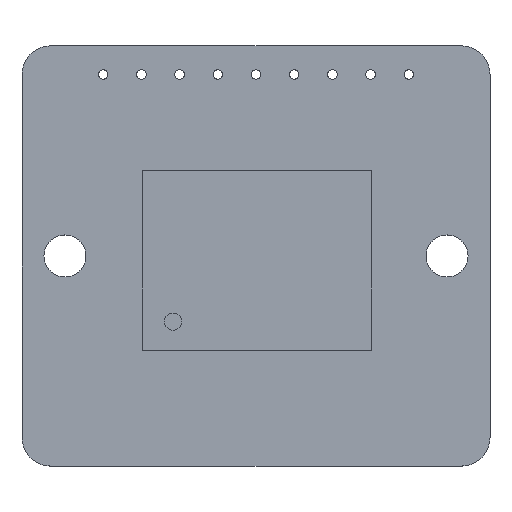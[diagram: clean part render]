
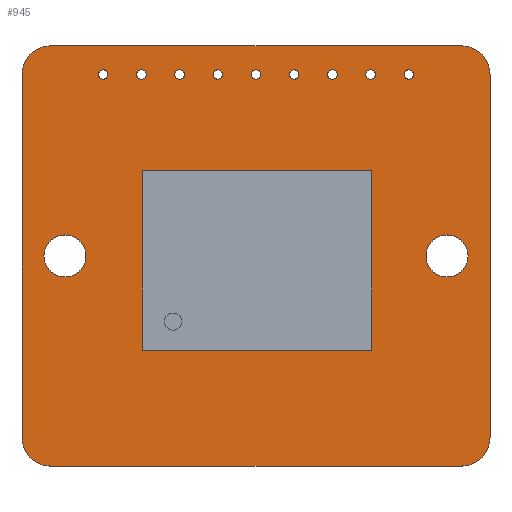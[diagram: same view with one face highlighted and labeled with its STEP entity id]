
A CAD part, top view. The second image highlights one B-rep face of the part: STEP entity #945.
In plain terms, the highlighted planar face has unit normal (0, 0, 1).
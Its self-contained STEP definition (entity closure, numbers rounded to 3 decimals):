
#284 = VERTEX_POINT('',#285);
#285 = CARTESIAN_POINT('',(-12.25,-9.5,1.599));
#291 = EDGE_CURVE('',#284,#292,#294,.T.);
#292 = VERTEX_POINT('',#293);
#293 = CARTESIAN_POINT('',(-12.25,9.5,1.599));
#294 = LINE('',#295,#296);
#295 = CARTESIAN_POINT('',(-12.25,-9.5,1.599));
#296 = VECTOR('',#297,1.);
#297 = DIRECTION('',(0.,1.,0.));
#322 = EDGE_CURVE('',#292,#323,#325,.T.);
#323 = VERTEX_POINT('',#324);
#324 = CARTESIAN_POINT('',(-10.75,11.,1.599));
#325 = CIRCLE('',#326,1.499);
#326 = AXIS2_PLACEMENT_3D('',#327,#328,#329);
#327 = CARTESIAN_POINT('',(-10.751,9.501,1.599));
#328 = DIRECTION('',(0.,0.,-1.));
#329 = DIRECTION('',(-1.,-0.001,-0.));
#355 = EDGE_CURVE('',#323,#356,#358,.T.);
#356 = VERTEX_POINT('',#357);
#357 = CARTESIAN_POINT('',(10.75,11.,1.599));
#358 = LINE('',#359,#360);
#359 = CARTESIAN_POINT('',(-10.75,11.,1.599));
#360 = VECTOR('',#361,1.);
#361 = DIRECTION('',(1.,0.,0.));
#386 = EDGE_CURVE('',#356,#387,#389,.T.);
#387 = VERTEX_POINT('',#388);
#388 = CARTESIAN_POINT('',(12.25,9.498,1.599));
#389 = CIRCLE('',#390,1.499);
#390 = AXIS2_PLACEMENT_3D('',#391,#392,#393);
#391 = CARTESIAN_POINT('',(10.751,9.501,1.599));
#392 = DIRECTION('',(0.,0.,-1.));
#393 = DIRECTION('',(-0.001,1.,0.));
#419 = EDGE_CURVE('',#387,#420,#422,.T.);
#420 = VERTEX_POINT('',#421);
#421 = CARTESIAN_POINT('',(12.25,-9.5,1.599));
#422 = LINE('',#423,#424);
#423 = CARTESIAN_POINT('',(12.25,9.498,1.599));
#424 = VECTOR('',#425,1.);
#425 = DIRECTION('',(0.,-1.,0.));
#450 = EDGE_CURVE('',#420,#451,#453,.T.);
#451 = VERTEX_POINT('',#452);
#452 = CARTESIAN_POINT('',(10.75,-11.,1.599));
#453 = CIRCLE('',#454,1.499);
#454 = AXIS2_PLACEMENT_3D('',#455,#456,#457);
#455 = CARTESIAN_POINT('',(10.751,-9.501,1.599));
#456 = DIRECTION('',(0.,0.,-1.));
#457 = DIRECTION('',(1.,0.001,0.));
#483 = EDGE_CURVE('',#451,#484,#486,.T.);
#484 = VERTEX_POINT('',#485);
#485 = CARTESIAN_POINT('',(-10.75,-11.,1.599));
#486 = LINE('',#487,#488);
#487 = CARTESIAN_POINT('',(10.75,-11.,1.599));
#488 = VECTOR('',#489,1.);
#489 = DIRECTION('',(-1.,0.,0.));
#514 = EDGE_CURVE('',#484,#284,#515,.T.);
#515 = CIRCLE('',#516,1.499);
#516 = AXIS2_PLACEMENT_3D('',#517,#518,#519);
#517 = CARTESIAN_POINT('',(-10.751,-9.501,1.599));
#518 = DIRECTION('',(0.,0.,-1.));
#519 = DIRECTION('',(0.001,-1.,0.));
#540 = VERTEX_POINT('',#541);
#541 = CARTESIAN_POINT('',(-8.9,0.,1.599));
#547 = EDGE_CURVE('',#540,#540,#548,.T.);
#548 = CIRCLE('',#549,1.1);
#549 = AXIS2_PLACEMENT_3D('',#550,#551,#552);
#550 = CARTESIAN_POINT('',(-10.,0.,1.599));
#551 = DIRECTION('',(0.,0.,1.));
#552 = DIRECTION('',(1.,0.,-0.));
#573 = VERTEX_POINT('',#574);
#574 = CARTESIAN_POINT('',(-7.75,9.5,1.599));
#580 = EDGE_CURVE('',#573,#573,#581,.T.);
#581 = CIRCLE('',#582,0.25);
#582 = AXIS2_PLACEMENT_3D('',#583,#584,#585);
#583 = CARTESIAN_POINT('',(-8.,9.5,1.599));
#584 = DIRECTION('',(0.,0.,1.));
#585 = DIRECTION('',(1.,0.,-0.));
#606 = VERTEX_POINT('',#607);
#607 = CARTESIAN_POINT('',(-5.75,9.5,1.599));
#613 = EDGE_CURVE('',#606,#606,#614,.T.);
#614 = CIRCLE('',#615,0.25);
#615 = AXIS2_PLACEMENT_3D('',#616,#617,#618);
#616 = CARTESIAN_POINT('',(-6.,9.5,1.599));
#617 = DIRECTION('',(0.,0.,1.));
#618 = DIRECTION('',(1.,0.,-0.));
#639 = VERTEX_POINT('',#640);
#640 = CARTESIAN_POINT('',(-1.75,9.5,1.599));
#646 = EDGE_CURVE('',#639,#639,#647,.T.);
#647 = CIRCLE('',#648,0.25);
#648 = AXIS2_PLACEMENT_3D('',#649,#650,#651);
#649 = CARTESIAN_POINT('',(-2.,9.5,1.599));
#650 = DIRECTION('',(0.,0.,1.));
#651 = DIRECTION('',(1.,0.,-0.));
#672 = VERTEX_POINT('',#673);
#673 = CARTESIAN_POINT('',(-3.75,9.5,1.599));
#679 = EDGE_CURVE('',#672,#672,#680,.T.);
#680 = CIRCLE('',#681,0.25);
#681 = AXIS2_PLACEMENT_3D('',#682,#683,#684);
#682 = CARTESIAN_POINT('',(-4.,9.5,1.599));
#683 = DIRECTION('',(0.,0.,1.));
#684 = DIRECTION('',(1.,0.,-0.));
#705 = VERTEX_POINT('',#706);
#706 = CARTESIAN_POINT('',(6.25,9.5,1.599));
#712 = EDGE_CURVE('',#705,#705,#713,.T.);
#713 = CIRCLE('',#714,0.25);
#714 = AXIS2_PLACEMENT_3D('',#715,#716,#717);
#715 = CARTESIAN_POINT('',(6.,9.5,1.599));
#716 = DIRECTION('',(0.,0.,1.));
#717 = DIRECTION('',(1.,0.,-0.));
#738 = VERTEX_POINT('',#739);
#739 = CARTESIAN_POINT('',(11.1,0.,1.599));
#745 = EDGE_CURVE('',#738,#738,#746,.T.);
#746 = CIRCLE('',#747,1.1);
#747 = AXIS2_PLACEMENT_3D('',#748,#749,#750);
#748 = CARTESIAN_POINT('',(10.,0.,1.599));
#749 = DIRECTION('',(0.,0.,1.));
#750 = DIRECTION('',(1.,0.,-0.));
#771 = VERTEX_POINT('',#772);
#772 = CARTESIAN_POINT('',(8.25,9.5,1.599));
#778 = EDGE_CURVE('',#771,#771,#779,.T.);
#779 = CIRCLE('',#780,0.25);
#780 = AXIS2_PLACEMENT_3D('',#781,#782,#783);
#781 = CARTESIAN_POINT('',(8.,9.5,1.599));
#782 = DIRECTION('',(0.,0.,1.));
#783 = DIRECTION('',(1.,0.,-0.));
#804 = VERTEX_POINT('',#805);
#805 = CARTESIAN_POINT('',(0.25,9.5,1.599));
#811 = EDGE_CURVE('',#804,#804,#812,.T.);
#812 = CIRCLE('',#813,0.25);
#813 = AXIS2_PLACEMENT_3D('',#814,#815,#816);
#814 = CARTESIAN_POINT('',(0.,9.5,1.599));
#815 = DIRECTION('',(0.,0.,1.));
#816 = DIRECTION('',(1.,0.,-0.));
#837 = VERTEX_POINT('',#838);
#838 = CARTESIAN_POINT('',(4.25,9.5,1.599));
#844 = EDGE_CURVE('',#837,#837,#845,.T.);
#845 = CIRCLE('',#846,0.25);
#846 = AXIS2_PLACEMENT_3D('',#847,#848,#849);
#847 = CARTESIAN_POINT('',(4.,9.5,1.599));
#848 = DIRECTION('',(0.,0.,1.));
#849 = DIRECTION('',(1.,0.,-0.));
#870 = VERTEX_POINT('',#871);
#871 = CARTESIAN_POINT('',(2.25,9.5,1.599));
#877 = EDGE_CURVE('',#870,#870,#878,.T.);
#878 = CIRCLE('',#879,0.25);
#879 = AXIS2_PLACEMENT_3D('',#880,#881,#882);
#880 = CARTESIAN_POINT('',(2.,9.5,1.599));
#881 = DIRECTION('',(0.,0.,1.));
#882 = DIRECTION('',(1.,0.,-0.));
#945 = ADVANCED_FACE('',(#946,#956,#959,#962,#965,#968,#971,#974,#977,
    #980,#983,#986),#989,.F.);
#946 = FACE_BOUND('',#947,.F.);
#947 = EDGE_LOOP('',(#948,#949,#950,#951,#952,#953,#954,#955));
#948 = ORIENTED_EDGE('',*,*,#291,.T.);
#949 = ORIENTED_EDGE('',*,*,#322,.T.);
#950 = ORIENTED_EDGE('',*,*,#355,.T.);
#951 = ORIENTED_EDGE('',*,*,#386,.T.);
#952 = ORIENTED_EDGE('',*,*,#419,.T.);
#953 = ORIENTED_EDGE('',*,*,#450,.T.);
#954 = ORIENTED_EDGE('',*,*,#483,.T.);
#955 = ORIENTED_EDGE('',*,*,#514,.T.);
#956 = FACE_BOUND('',#957,.F.);
#957 = EDGE_LOOP('',(#958));
#958 = ORIENTED_EDGE('',*,*,#547,.T.);
#959 = FACE_BOUND('',#960,.F.);
#960 = EDGE_LOOP('',(#961));
#961 = ORIENTED_EDGE('',*,*,#580,.T.);
#962 = FACE_BOUND('',#963,.F.);
#963 = EDGE_LOOP('',(#964));
#964 = ORIENTED_EDGE('',*,*,#613,.T.);
#965 = FACE_BOUND('',#966,.F.);
#966 = EDGE_LOOP('',(#967));
#967 = ORIENTED_EDGE('',*,*,#646,.T.);
#968 = FACE_BOUND('',#969,.F.);
#969 = EDGE_LOOP('',(#970));
#970 = ORIENTED_EDGE('',*,*,#679,.T.);
#971 = FACE_BOUND('',#972,.F.);
#972 = EDGE_LOOP('',(#973));
#973 = ORIENTED_EDGE('',*,*,#712,.T.);
#974 = FACE_BOUND('',#975,.F.);
#975 = EDGE_LOOP('',(#976));
#976 = ORIENTED_EDGE('',*,*,#745,.T.);
#977 = FACE_BOUND('',#978,.F.);
#978 = EDGE_LOOP('',(#979));
#979 = ORIENTED_EDGE('',*,*,#778,.T.);
#980 = FACE_BOUND('',#981,.F.);
#981 = EDGE_LOOP('',(#982));
#982 = ORIENTED_EDGE('',*,*,#811,.T.);
#983 = FACE_BOUND('',#984,.F.);
#984 = EDGE_LOOP('',(#985));
#985 = ORIENTED_EDGE('',*,*,#844,.T.);
#986 = FACE_BOUND('',#987,.F.);
#987 = EDGE_LOOP('',(#988));
#988 = ORIENTED_EDGE('',*,*,#877,.T.);
#989 = PLANE('',#990);
#990 = AXIS2_PLACEMENT_3D('',#991,#992,#993);
#991 = CARTESIAN_POINT('',(0.,0.,
    1.599));
#992 = DIRECTION('',(-0.,-0.,-1.));
#993 = DIRECTION('',(-1.,0.,0.));
